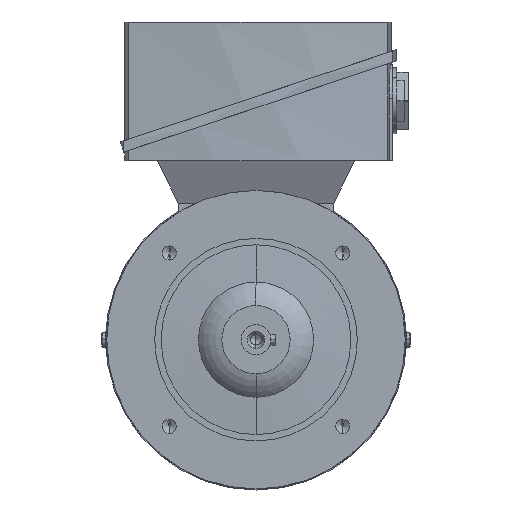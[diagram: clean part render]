
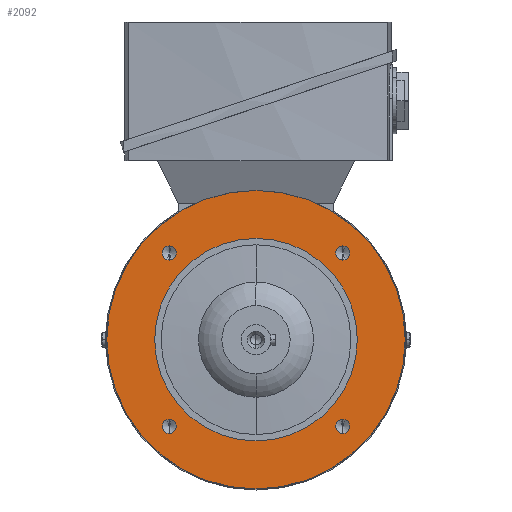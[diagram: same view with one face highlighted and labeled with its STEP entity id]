
A CAD part, left-side view. The second image highlights one B-rep face of the part: STEP entity #2092.
In plain terms, the highlighted planar face has unit normal (-1, 0, 0).
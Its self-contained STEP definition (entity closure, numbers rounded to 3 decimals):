
#2092=ADVANCED_FACE('',(#4241,#4242,#4243,#4244,#4245,#4246),#4247,.T.);
#4241=FACE_BOUND('',#6388,.T.);
#4242=FACE_BOUND('',#6389,.T.);
#4243=FACE_BOUND('',#6390,.T.);
#4244=FACE_BOUND('',#6391,.T.);
#4245=FACE_OUTER_BOUND('',#6392,.T.);
#4246=FACE_BOUND('',#6393,.T.);
#4247=PLANE('',#6394);
#6388=EDGE_LOOP('',(#12786,#12787));
#6389=EDGE_LOOP('',(#12788,#12789));
#6390=EDGE_LOOP('',(#12790,#12791));
#6391=EDGE_LOOP('',(#12792,#12793));
#6392=EDGE_LOOP('',(#12794,#12795));
#6393=EDGE_LOOP('',(#12796,#12797));
#6394=AXIS2_PLACEMENT_3D('',#12798,#12799,#12800);
#12786=ORIENTED_EDGE('',*,*,#15250,.T.);
#12787=ORIENTED_EDGE('',*,*,#12888,.T.);
#12788=ORIENTED_EDGE('',*,*,#15254,.T.);
#12789=ORIENTED_EDGE('',*,*,#12880,.T.);
#12790=ORIENTED_EDGE('',*,*,#15258,.T.);
#12791=ORIENTED_EDGE('',*,*,#12872,.T.);
#12792=ORIENTED_EDGE('',*,*,#15262,.T.);
#12793=ORIENTED_EDGE('',*,*,#12864,.T.);
#12794=ORIENTED_EDGE('',*,*,#12826,.F.);
#12795=ORIENTED_EDGE('',*,*,#15340,.F.);
#12796=ORIENTED_EDGE('',*,*,#12839,.T.);
#12797=ORIENTED_EDGE('',*,*,#15338,.T.);
#12798=CARTESIAN_POINT('',(-23.0,0.0,58.75));
#12799=DIRECTION('',(-1.0,-0.0,-0.0));
#12800=DIRECTION('',(0.0,0.0,-1.0));
#12826=EDGE_CURVE('',#15345,#15348,#15349,.T.);
#12839=EDGE_CURVE('',#15367,#15371,#15373,.T.);
#12864=EDGE_CURVE('',#15411,#15408,#15412,.T.);
#12872=EDGE_CURVE('',#15424,#15421,#15425,.T.);
#12880=EDGE_CURVE('',#15437,#15434,#15438,.T.);
#12888=EDGE_CURVE('',#15450,#15447,#15451,.T.);
#15250=EDGE_CURVE('',#15447,#15450,#18952,.T.);
#15254=EDGE_CURVE('',#15434,#15437,#18956,.T.);
#15258=EDGE_CURVE('',#15421,#15424,#18960,.T.);
#15262=EDGE_CURVE('',#15408,#15411,#18964,.T.);
#15338=EDGE_CURVE('',#15371,#15367,#19063,.T.);
#15340=EDGE_CURVE('',#15348,#15345,#19065,.T.);
#15345=VERTEX_POINT('',#19070);
#15348=VERTEX_POINT('',#19074);
#15349=CIRCLE('',#19075,70.0);
#15367=VERTEX_POINT('',#19094);
#15371=VERTEX_POINT('',#19099);
#15373=CIRCLE('',#19102,47.5);
#15408=VERTEX_POINT('',#19161);
#15411=VERTEX_POINT('',#19165);
#15412=CIRCLE('',#19166,3.325);
#15421=VERTEX_POINT('',#19178);
#15424=VERTEX_POINT('',#19182);
#15425=CIRCLE('',#19183,3.325);
#15434=VERTEX_POINT('',#19195);
#15437=VERTEX_POINT('',#19199);
#15438=CIRCLE('',#19200,3.325);
#15447=VERTEX_POINT('',#19212);
#15450=VERTEX_POINT('',#19216);
#15451=CIRCLE('',#19217,3.325);
#18952=CIRCLE('',#29303,3.325);
#18956=CIRCLE('',#29307,3.325);
#18960=CIRCLE('',#29311,3.325);
#18964=CIRCLE('',#29315,3.325);
#19063=CIRCLE('',#29513,47.5);
#19065=CIRCLE('',#29515,70.0);
#19070=CARTESIAN_POINT('',(-23.0,0.0,70.0));
#19074=CARTESIAN_POINT('',(-23.0,0.,-70.0));
#19075=AXIS2_PLACEMENT_3D('',#29520,#29521,#29522);
#19094=CARTESIAN_POINT('',(-23.0,0.0,47.5));
#19099=CARTESIAN_POINT('',(-23.0,0.,-47.5));
#19102=AXIS2_PLACEMENT_3D('',#29550,#29551,#29552);
#19161=CARTESIAN_POINT('',(-23.0,40.659,37.334));
#19165=CARTESIAN_POINT('',(-23.0,40.659,43.984));
#19166=AXIS2_PLACEMENT_3D('',#29587,#29588,#29589);
#19178=CARTESIAN_POINT('',(-23.0,40.659,-43.984));
#19182=CARTESIAN_POINT('',(-23.0,40.659,-37.334));
#19183=AXIS2_PLACEMENT_3D('',#29597,#29598,#29599);
#19195=CARTESIAN_POINT('',(-23.0,-40.659,-43.984));
#19199=CARTESIAN_POINT('',(-23.0,-40.659,-37.334));
#19200=AXIS2_PLACEMENT_3D('',#29607,#29608,#29609);
#19212=CARTESIAN_POINT('',(-23.0,-40.659,37.334));
#19216=CARTESIAN_POINT('',(-23.0,-40.659,43.984));
#19217=AXIS2_PLACEMENT_3D('',#29617,#29618,#29619);
#29303=AXIS2_PLACEMENT_3D('',#31709,#31710,#31711);
#29307=AXIS2_PLACEMENT_3D('',#31715,#31716,#31717);
#29311=AXIS2_PLACEMENT_3D('',#31721,#31722,#31723);
#29315=AXIS2_PLACEMENT_3D('',#31727,#31728,#31729);
#29513=AXIS2_PLACEMENT_3D('',#31796,#31797,#31798);
#29515=AXIS2_PLACEMENT_3D('',#31799,#31800,#31801);
#29520=CARTESIAN_POINT('',(-23.0,0.0,0.0));
#29521=DIRECTION('',(1.0,0.0,-0.0));
#29522=DIRECTION('',(0.0,0.0,1.0));
#29550=CARTESIAN_POINT('',(-23.0,0.0,0.0));
#29551=DIRECTION('',(1.0,0.0,-0.0));
#29552=DIRECTION('',(0.0,0.0,1.0));
#29587=CARTESIAN_POINT('',(-23.0,40.659,40.659));
#29588=DIRECTION('',(1.0,0.0,0.0));
#29589=DIRECTION('',(0.0,0.0,-1.0));
#29597=CARTESIAN_POINT('',(-23.0,40.659,-40.659));
#29598=DIRECTION('',(1.0,0.0,0.0));
#29599=DIRECTION('',(0.0,0.0,-1.0));
#29607=CARTESIAN_POINT('',(-23.0,-40.659,-40.659));
#29608=DIRECTION('',(1.0,0.0,0.0));
#29609=DIRECTION('',(0.0,0.0,-1.0));
#29617=CARTESIAN_POINT('',(-23.0,-40.659,40.659));
#29618=DIRECTION('',(1.0,0.0,0.0));
#29619=DIRECTION('',(0.0,0.0,-1.0));
#31709=CARTESIAN_POINT('',(-23.0,-40.659,40.659));
#31710=DIRECTION('',(1.0,0.0,0.0));
#31711=DIRECTION('',(0.0,0.0,-1.0));
#31715=CARTESIAN_POINT('',(-23.0,-40.659,-40.659));
#31716=DIRECTION('',(1.0,0.0,0.0));
#31717=DIRECTION('',(0.0,0.0,-1.0));
#31721=CARTESIAN_POINT('',(-23.0,40.659,-40.659));
#31722=DIRECTION('',(1.0,0.0,0.0));
#31723=DIRECTION('',(0.0,0.0,-1.0));
#31727=CARTESIAN_POINT('',(-23.0,40.659,40.659));
#31728=DIRECTION('',(1.0,0.0,0.0));
#31729=DIRECTION('',(0.0,0.0,-1.0));
#31796=CARTESIAN_POINT('',(-23.0,0.0,0.0));
#31797=DIRECTION('',(1.0,0.0,-0.0));
#31798=DIRECTION('',(0.0,0.0,1.0));
#31799=CARTESIAN_POINT('',(-23.0,0.0,0.0));
#31800=DIRECTION('',(1.0,0.0,-0.0));
#31801=DIRECTION('',(0.0,0.0,1.0));
